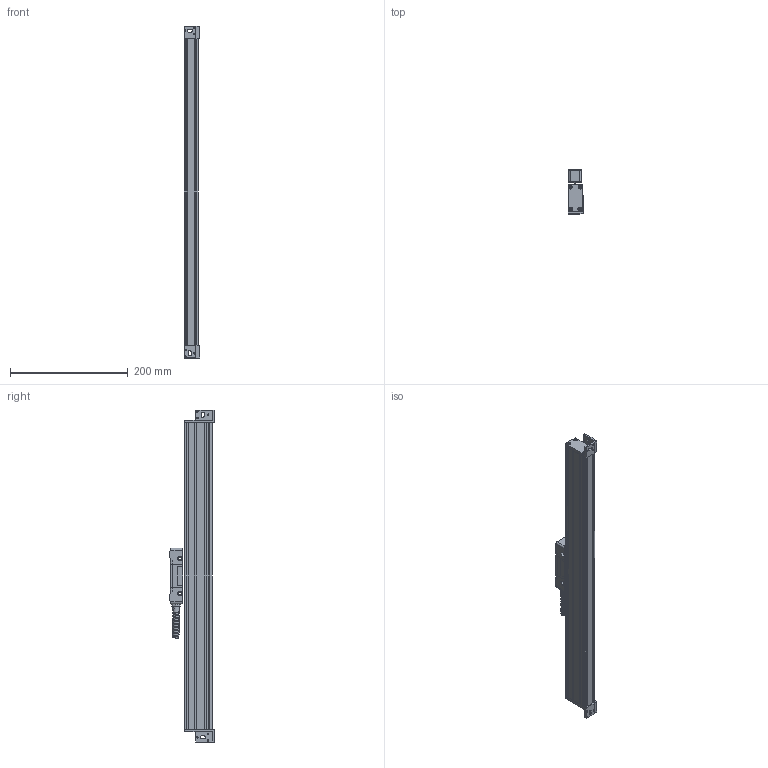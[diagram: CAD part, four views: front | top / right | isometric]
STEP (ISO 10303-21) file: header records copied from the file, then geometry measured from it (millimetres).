
FILE_DESCRIPTION (( 'STEP AP214' ), '1' );
FILE_NAME ('MLC310x0400.STEP', '2021-05-08T11:48:49', ( '' ), ( '' ), 'SwSTEP 2.0', 'SolidWorks 2014', '' );
FILE_SCHEMA (( 'AUTOMOTIVE_DESIGN' ));
Length unit declared in the file: millimetre
Products named in the file (1): MLC310x0400
Bounding box: 27 x 75.15 x 564 mm (x, y, z)
Surface area: 110153.3 mm2 (no closed solid volume)
Topology: 0 solids, 22 shells, 447 faces, 1687 edges, 1244 vertices
Faces by surface type: plane 178, cylinder 145, cone 81, bspline 33, torus 10
Entity records: 33610 total; most frequent: CARTESIAN_POINT 14608, DIRECTION 2875, ORIENTED_EDGE 2750, EDGE_CURVE 1679, VERTEX_POINT 1244, AXIS2_PLACEMENT_3D 1000, LINE 875, VECTOR 875
